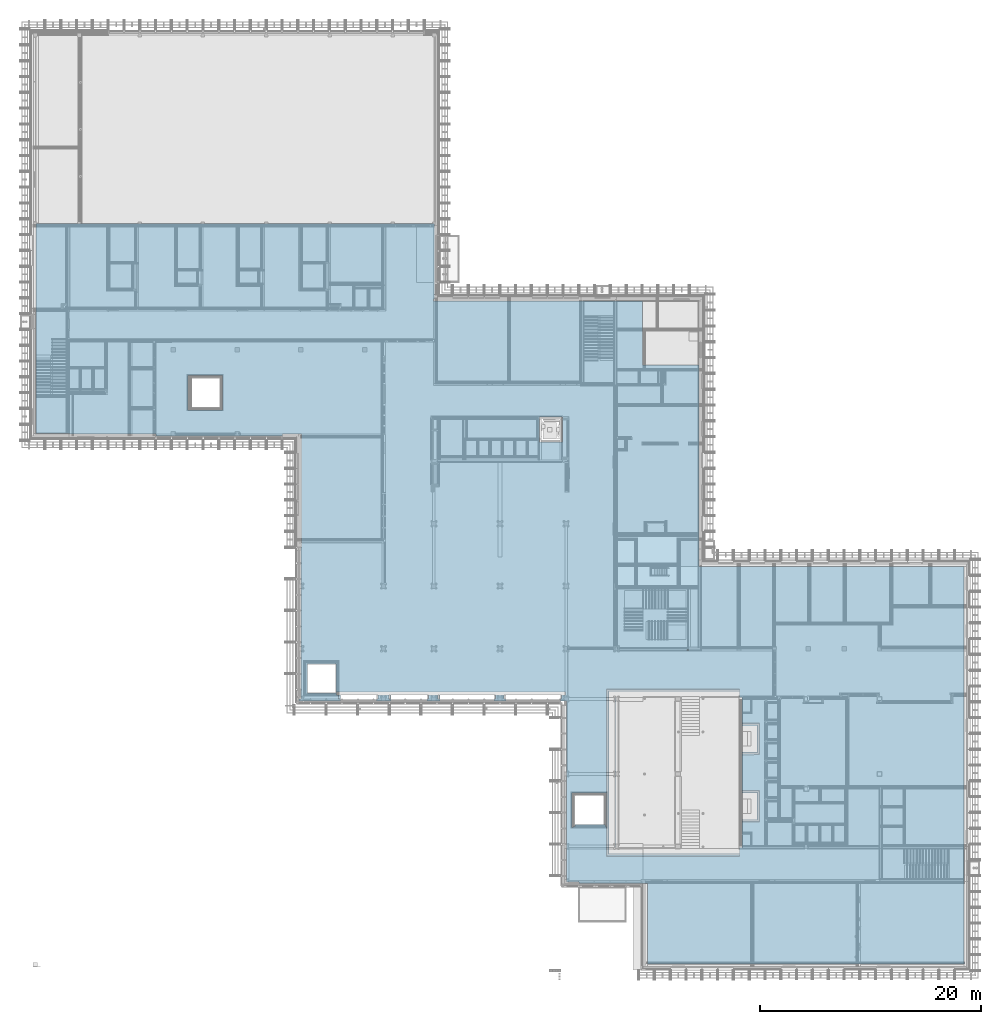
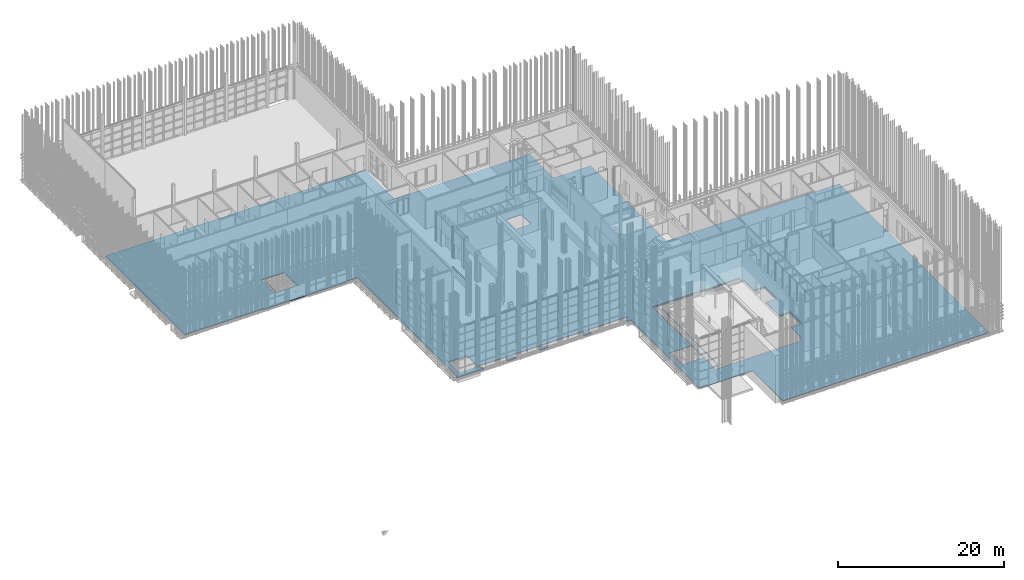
# One storey, part 167 of 260: 1 building element part, 1 element without a shape of its own.
"""IFC2X3 building model written with IfcOpenShell, lengths in millimetres."""

from ifc_helpers import new_model, entity, si_unit, converted_unit, derived_unit, money_unit, direction, frame, origin_with_axes, place, context, subcontext, project, spatial, faceted_brep, material, type_object, element, aggregate, save


model = new_model("IFC2X3")

# Units and contexts
model_context = context("Model", 3, precision=0.01, world=origin_with_axes(), true_north=direction((0.0, 1.0)))
body_context = subcontext(model_context, "Body", "Model", "MODEL_VIEW")
ifc_project = project(units=[si_unit("LENGTHUNIT", "METRE", prefix="MILLI"), si_unit("AREAUNIT", "SQUARE_METRE"), si_unit("VOLUMEUNIT", "CUBIC_METRE"), converted_unit("PLANEANGLEUNIT", "DEGREE", entity("IfcPlaneAngleMeasure", 0.0174532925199), si_unit("PLANEANGLEUNIT", "RADIAN"), dimensions=[0, 0, 0, 0, 0, 0, 0]), money_unit("EUR"), converted_unit("TIMEUNIT", "Year", entity("IfcTimeMeasure", 31556926.0), si_unit("TIMEUNIT", "SECOND"), dimensions=[0, 0, 1, 0, 0, 0, 0]), si_unit("MASSUNIT", "GRAM", prefix="KILO"), si_unit("THERMODYNAMICTEMPERATUREUNIT", "DEGREE_CELSIUS"), si_unit("LUMINOUSINTENSITYUNIT", "LUMEN"), si_unit("ENERGYUNIT", "JOULE", prefix="MEGA"), derived_unit("THERMALCONDUCTANCEUNIT", [(si_unit("POWERUNIT", "WATT"), 1), (si_unit("LENGTHUNIT", "METRE"), -1), (si_unit("THERMODYNAMICTEMPERATUREUNIT", "KELVIN"), -1)]), derived_unit("SPECIFICHEATCAPACITYUNIT", [(si_unit("ENERGYUNIT", "JOULE"), 1), (si_unit("MASSUNIT", "GRAM", prefix="KILO"), -1), (si_unit("THERMODYNAMICTEMPERATUREUNIT", "KELVIN"), -1)]), derived_unit("MASSDENSITYUNIT", [(si_unit("MASSUNIT", "GRAM", prefix="KILO"), 1), (si_unit("VOLUMEUNIT", "CUBIC_METRE"), -1)])], contexts=[model_context])

# Site, building, storey
site_placement = place(None, origin_with_axes())
site = spatial("IfcSite", under=ifc_project, at=site_placement, Name="Kolde pst 67a", CompositionType="ELEMENT")
building_placement = place(site_placement, origin_with_axes())
building = spatial("IfcBuilding", under=site, at=building_placement, Name="Riigigümnaasium", CompositionType="ELEMENT")
storey_placement = place(building_placement, origin_with_axes())
storey = spatial("IfcBuildingStorey", under=building, at=storey_placement, Name="1. korrus", CompositionType="ELEMENT", Elevation=0.0)

# Slab, building element part
slab_type = type_object("IfcSlabType", Name="PP-RBM-10/1_EPS 200 500", PredefinedType="NOTDEFINED")
slab_placement = place(storey_placement, frame((266.322784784, 67249.9971514, 0.0), z_axis=(0.0, 0.0, 1.0), x_axis=(1.0, 0.0, 0.0)))
slab = element("IfcSlab", 1, at=slab_placement, inside=storey, type_object=slab_type, Name="Põrand pinnasel", PredefinedType="NOTDEFINED")
ifc_material = material(Name="_SOOJUSTUS - vahtpolüstüreenplaadid EPS 120 Perimeeter, survetugevus min 120kPa, veeimavus <2%, soojuserijuhtivus λD<0,036 W/(mK)")
building_element_part_placement = place(slab_placement, origin_with_axes())
building_element_part = element("IfcBuildingElementPart", 2, at=building_element_part_placement, material=ifc_material, Name="_SOOJUSTUS - vahtpolüstüreenplaadid EPS 120 Perimeeter, survetugevus min 120kPa, veeimavus <2%, soojuserijuhtivus λD<0,036 W/(mK)", context=body_context, shape_type="Brep", body=[
    faceted_brep([(27531.5095656, -42650.2966921, -200.2), (27531.5095656, -42649.7267552, -200.2), (27168.5095656, -42649.7267552, -200.2), (27168.5095656, -42400.2966901, -200.2), (47902.308394, -42400.2966901, -200.2), (47902.308394, -42650.2966921, -200.2), (47560.6814514, -42650.2966876, -200.2), (47560.6775752, -42989.9947483, -200.2), (47436.9477703, -42989.9933365, -200.2), (47436.9477703, -43209.9971514, -200.2), (47799.9291214, -43209.997022, -200.2), (47983.6626713, -43209.9991185, -200.2), (47983.4761046, -59559.9948118, -200.2), (49105.2303604, -59560.0076119, -200.2), (49105.2284207, -59729.9962674, -200.2), (55329.9251795, -59729.9852703, -200.2), (55329.9241436, -67009.9971514, -200.2), (83973.6765431, -67009.9971514, -200.2), (83973.6765431, -31009.9974516, -200.2), (59999.9377357, -31009.9974516, -200.2), (59999.9377357, -12779.9970931, -200.2), (54876.9257173, -12779.9970931, -200.2), (54876.9257173, -12732.9970931, -200.2), (54847.6592908, -12732.9970931, -200.2), (54847.6592908, -12729.9970931, -200.2), (54847.6592908, -7009.99696703, -200.2), (35973.6764556, -7009.99696703, -200.2), (35973.6764556, -6809.99696703, -200.2), (36039.9416319, -6809.99696703, -200.2), (36039.9429015, 0.0, -200.2), (0.0, 0.0, -200.2), (0.0, -19010.7371507, -200.2), (2999.88406628, -19009.9992035, -200.2), (2999.88406448, -19050.0165838, -200.2), (10868.5385943, -19050.0164764, -200.2), (10868.5385943, -19210.0163206, -200.2), (22288.5650026, -19210.0163206, -200.2), (22288.5650026, -19050.0163206, -200.2), (23999.9463759, -19050.0166275, -200.2), (23999.9463759, -29299.500562, -200.2), (23973.6799494, -29299.5005252, -200.2), (23973.6799494, -42999.980095, -200.2), (23799.9460972, -42999.9781126, -200.2), (23799.9457899, -43209.7267572, -200.2), (27557.7759921, -43209.7267572, -200.2), (27557.7759921, -42650.2966876, -200.2), (24550.0004112, -39859.9971514, -200.2), (27150.0004112, -39859.9971514, -200.2), (27150.0004112, -42459.9971514, -200.2), (24550.0004112, -42459.9971514, -200.2), (45534.9291024, -17479.9971915, -200.2), (47634.9291054, -17479.9971915, -200.2), (47634.9291054, -19779.9971915, -200.2), (45534.9291024, -19779.9971915, -200.2), (59013.7339847, -38555.9974954, -200.2), (59013.7339847, -38629.9974954, -200.2), (58908.7339847, -38629.9974954, -200.2), (58908.7339847, -38555.9974954, -200.2), (16871.6777342, -16888.0095232, -200.2), (13735.6777342, -16888.0095232, -200.2), (13725.6777342, -16888.0095232, -200.2), (13725.6777342, -13742.0095232, -200.2), (13735.6777342, -13742.0095232, -200.2), (16861.6777342, -13742.0095232, -200.2), (16871.6777342, -13742.0095232, -200.2), (16871.6777342, -16878.0095232, -200.2), (65456.2034035, -45197.1583085, -200.199995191), (65456.289526, -48062.683755, -200.199995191), (65314.8681698, -48062.6879883, -200.20000016), (63889.4798317, -48062.730776, -200.199997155), (63889.4803785, -51297.2557666, -200.199997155), (65314.9653428, -51297.2192021, -200.199995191), (65456.386699, -51297.2155757, -200.199995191), (65456.4728938, -54162.7771953, -200.199995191), (65315.0515376, -54162.7808125, -200.199995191), (63889.4805108, -54162.8172633, -200.199997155), (63889.4805108, -56470.0352098, -200.2), (63663.580611, -56470.0352098, -200.2), (63663.580611, -57111.286678, -200.2), (51752.4198565, -57111.2866668, -200.2), (51752.4198565, -42258.7455672, -200.2), (63663.580611, -42258.7455562, -200.2), (63663.580611, -42899.9970244, -200.2), (63889.4805108, -42900.0006175, -200.2), (63889.4797602, -45197.2053498, -200.199997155), (65314.7820474, -45197.1625537, -200.199995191), (51374.9334552, -54375.0161939, -200.2), (48774.9334552, -54375.0161939, -200.2), (48774.9334552, -51775.0161939, -200.2), (48748.6670287, -51775.0161939, -200.2), (48748.6670287, -54535.0161939, -200.2), (48588.6670287, -54535.0161939, -200.2), (48588.6670287, -54538.0161939, -200.2), (48585.6670287, -54538.0161939, -200.2), (48585.6670287, -54638.0161939, -200.2), (48485.6670287, -54638.0161939, -200.2), (48485.6670287, -54648.0161939, -200.2), (48475.6670287, -54648.0161939, -200.2), (48475.6670287, -51502.0161939, -200.2), (48485.6670287, -51502.0161939, -200.2), (51610.8871871, -51502.0161939, -200.199998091), (51610.8871871, -42117.212881, -200.199998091), (51752.3085433, -42117.2128908, -200.2), (63663.580611, -42117.2128906, -200.2), (63663.580611, -42258.6342468, -200.2), (51752.3085433, -42258.6342475, -200.2), (51752.3085433, -57111.3979867, -200.2), (63663.580611, -57111.3979874, -200.2), (63663.580611, -57252.8193437, -200.2), (51752.3085433, -57252.8193435, -200.2), (51610.8871871, -57252.8193551, -200.199998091), (51610.8871871, -54538.0161939, -200.199998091), (51511.6670287, -54538.0161939, -200.2), (51511.6670287, -54535.0161939, -200.2), (51508.6670287, -54535.0161939, -200.2), (51508.6670287, -54375.0161939, -200.2), (27531.5095656, -42650.2966921, -200.2), (27531.5095656, -43000.0206928, -200.2), (27381.5095656, -43000.0189812, -200.2), (27381.5095656, -42650.2966921, -200.2), (27531.5095656, -42649.7267552, -300.2), (27531.5095656, -42650.2966921, -230.1), (27531.5095656, -43000.0206928, -230.1), (27531.5095656, -43000.0206928, -300.2), (27168.5095656, -42649.7267552, -300.2), (27168.5095656, -42400.296694, -300.2), (47902.308394, -42400.2966901, -300.2), (47902.308394, -43000.0263026, -300.2), (47902.308394, -43000.0263026, -230.1), (47902.308394, -42650.2966921, -230.1), (47560.6814514, -42650.2966921, -230.1), (47560.6775752, -42989.9947483, -230.099964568), (47436.9477703, -42989.9933365, -230.099964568), (47436.9477703, -43000.0261745, -230.1), (47436.9477703, -43000.0206919, -300.2), (47436.9477703, -43209.9971514, -300.2), (47799.9291214, -43209.997022, -300.2), (47983.6626713, -43209.9991185, -300.2), (47983.4761046, -59559.9948118, -300.2), (49105.2303604, -59560.0076119, -300.2), (49105.2284207, -59729.9962674, -300.2), (55329.9251795, -59729.9852703, -300.2), (55329.9241436, -67009.9971514, -300.2), (83999.9167207, -67009.9971514, -300.2), (83999.9167207, -67009.9971514, -270.00000149), (83973.6765431, -67009.9971514, -270.00000149), (83973.6765431, -66810.0545954, -270.00000149), (83973.6765431, -31009.9971244, -270.00000149), (83773.7339872, -31009.9971272, -270.000009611), (83773.7339872, -31009.9974516, -300.2), (59999.9377357, -31009.9974516, -300.2), (59999.9377357, -12779.9970931, -300.2), (54876.9257173, -12779.9970931, -300.2), (54876.9257173, -12732.9970931, -300.2), (54847.6592908, -12732.9970931, -300.2), (54847.6592908, -12729.9970931, -300.2), (54847.6592908, -7209.939523, -300.2), (54847.6592908, -7209.939523, -270.00000149), (54847.6592908, -7009.99696703, -270.00000149), (35973.6764556, -7009.99696703, -269.99999952), (35973.6764556, -6809.99696703, -269.99999952), (36039.9415946, -6809.99696703, -269.999999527), (36039.9415946, -6609.939523, -269.999999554), (36039.9416692, -6609.939523, -300.2), (36039.9429015, 0.0, -300.2), (0.0, 0.0, -300.2), (0.0, -19010.7371507, -300.2), (2999.88406628, -19009.9992035, -300.2), (2999.88406448, -19050.0165838, -300.2), (10868.5385943, -19050.0164764, -300.2), (10868.5385943, -19210.0163206, -300.2), (22288.5650026, -19210.0163206, -300.2), (22288.5650026, -19050.0163206, -300.2), (23999.9463759, -19050.0166275, -300.2), (23999.9463759, -29299.500562, -300.2), (23973.6799494, -29299.5005252, -300.2), (23973.6799494, -42999.980095, -300.2), (23799.9460972, -42999.9781126, -300.2), (23799.9457899, -43209.7267572, -300.2), (27557.7759921, -43209.7267572, -300.2), (27557.7759921, -43000.0207, -230.1), (27557.7759921, -42650.2966921, -230.1), (27557.7759921, -43000.0206919, -300.2), (27150.0004112, -39859.9971514, -300.2), (24550.0004112, -39859.9971514, -300.2), (27150.0004112, -42459.9971514, -300.2), (24550.0004112, -42459.9971514, -300.2), (47634.9291054, -17479.9971915, -300.2), (45534.9291024, -17479.9971915, -300.2), (47634.9291054, -19779.9971915, -300.2), (45534.9291024, -19779.9971915, -300.2), (59013.7339847, -38555.9974954, -300.000001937), (59013.7339847, -38629.9974954, -300.000001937), (58908.7339847, -38629.9974954, -300.000001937), (58908.7339847, -38555.9974954, -300.000001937), (16871.6777342, -16888.0095232, -300.2), (13735.6777342, -16888.0095232, -300.2), (13725.6777342, -16888.0095232, -300.2), (13725.6777342, -13742.0095232, -300.2), (13735.6777342, -13742.0095232, -300.2), (16861.6777342, -13742.0095232, -300.2), (16871.6777342, -13742.0095232, -300.2), (16871.6777342, -16878.0095232, -300.2), (65356.2865219, -47962.6867513, -300.200000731), (65356.2064104, -45297.1613158, -300.200000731), (65214.8651651, -47962.690992, -300.199999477), (63889.4798148, -47962.7307774, -300.19999581), (63889.4803954, -51397.2557652, -300.199995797), (65214.9683497, -51397.2217721, -300.199997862), (65356.3897083, -51397.2181454, -300.200000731), (65356.4698872, -54062.7797475, -300.200000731), (65215.0485273, -54062.7833631, -300.199999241), (63889.4805108, -54062.8172647, -300.19999581), (63889.4805108, -56470.0352098, -300.2), (63663.580611, -56470.0352098, -300.2), (63663.580611, -57011.3220155, -300.2), (51852.3845167, -57011.3220094, -300.2), (51852.3845167, -42358.7102245, -300.2), (63663.580611, -42358.7102187, -300.2), (63663.580611, -42899.9970244, -300.2), (63889.4805108, -42900.0006175, -300.2), (63889.4797275, -45297.2053484, -300.199995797), (65214.7850519, -45297.1655613, -300.199997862), (48774.9334552, -54375.0161939, -300.2), (51374.9334552, -54375.0161939, -300.2), (48774.9334552, -51775.0161939, -300.2), (48748.6670287, -51775.0161939, -300.2), (48748.6670287, -54535.0161939, -300.2), (48588.6670287, -54535.0161939, -300.2), (48588.6670287, -54538.0161939, -300.2), (48585.6670287, -54538.0161939, -300.2), (48585.6670287, -54638.0161939, -300.2), (48485.6670287, -54638.0161939, -300.2), (48485.6670287, -54648.0161939, -300.2), (48475.6670287, -54648.0161939, -300.2), (48475.6670287, -51502.0161939, -300.2), (48485.6670287, -51502.0161939, -300.2), (51611.6670287, -51502.0161939, -300.2), (51611.6670287, -51502.0161939, -200.979839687), (51710.8871857, -42217.2128828, -300.200003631), (51621.6670287, -51502.0161939, -210.979840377), (51621.6670287, -54638.0161939, -210.979840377), (51611.6670287, -54638.0161939, -200.979839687), (51611.6670287, -54538.0161939, -200.979839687), (51710.8871857, -57152.8193495, -300.200003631), (51852.308542, -42217.2128859, -300.199998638), (63663.580611, -42217.2128892, -300.199998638), (63663.580611, -42358.6342468, -300.2), (51852.308544, -42358.6342479, -300.200000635), (51852.3085436, -57011.3979867, -300.200000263), (63663.580611, -57011.3979874, -300.2), (63663.580611, -57152.819345, -300.199998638), (51852.308542, -57152.8193483, -300.199998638), (51611.6670287, -54538.0161939, -300.2), (51511.6670287, -54538.0161939, -300.2), (51511.6670287, -54535.0161939, -300.2), (51508.6670287, -54535.0161939, -300.2), (51508.6670287, -54375.0161939, -300.2), (27531.5095656, -42650.2966921, -230.099996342), (27531.5095656, -43000.0206928, -230.099996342), (27381.5095656, -43000.0189812, -230.099996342), (27381.5095656, -42650.2966921, -230.099996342), (35713.7338936, -6609.939523, -300.2), (35713.7338936, -7209.939523, -300.2), (83773.7339872, -66810.0545954, -300.2), (83999.9167207, -66810.0545954, -300.2), (51611.6670287, -54638.0161939, -300.2), (51621.6670287, -54638.0161939, -300.2), (51621.6670287, -51502.0161939, -300.2), (83999.9167207, -66810.0545954, -270.00000149), (83773.7339872, -66810.0545954, -270.00000149), (35713.7338936, -7209.939523, -269.99999952), (35713.7338936, -7009.99696703, -269.99999952), (35713.7338936, -6609.939523, -269.99999952)], [[[0, 1, 2, 3, 4, 5, 6, 7, 8, 9, 10, 11, 12, 13, 14, 15, 16, 17, 18, 19, 20, 21, 22, 23, 24, 25, 26, 27, 28, 29, 30, 31, 32, 33, 34, 35, 36, 37, 38, 39, 40, 41, 42, 43, 44, 45], [46, 47, 48, 49], [50, 51, 52, 53], [54, 55, 56, 57], [58, 59, 60, 61, 62, 63, 64, 65], [66, 67, 68, 69, 70, 71, 72, 73, 74, 75, 76, 77, 78, 79, 80, 81, 82, 83, 84, 85], [86, 87, 88, 89, 90, 91, 92, 93, 94, 95, 96, 97, 98, 99, 100, 101, 102, 103, 104, 105, 106, 107, 108, 109, 110, 111, 112, 113, 114, 115], [116, 117, 118, 119]], [[120, 1, 0, 121, 122, 123]], [[124, 2, 1, 120]], [[124, 125, 3, 2]], [[126, 4, 3, 125]], [[5, 4, 126, 127, 128, 129]], [[130, 6, 5, 129]], [[6, 130, 131, 7]], [[7, 131, 132, 8]], [[132, 133, 134, 135, 9, 8]], [[9, 135, 136, 10]], [[136, 137, 11, 10]], [[137, 138, 12, 11]], [[139, 13, 12, 138]], [[140, 14, 13, 139]], [[15, 14, 140, 141]], [[142, 16, 15, 141]], [[143, 144, 145, 17, 16, 142]], [[145, 146, 147, 18, 17]], [[18, 147, 148, 149, 150, 19]], [[151, 20, 19, 150]], [[152, 21, 20, 151]], [[22, 21, 152, 153]], [[22, 153, 154, 23]], [[24, 23, 154, 155]], [[24, 155, 156, 157, 158, 25]], [[26, 25, 158, 159]], [[160, 27, 26, 159]], [[160, 161, 28, 27]], [[29, 28, 161, 162, 163, 164]], [[165, 30, 29, 164]], [[166, 31, 30, 165]], [[167, 32, 31, 166]], [[168, 33, 32, 167]], [[169, 34, 33, 168]], [[170, 35, 34, 169]], [[171, 36, 35, 170]], [[172, 37, 36, 171]], [[173, 38, 37, 172]], [[174, 39, 38, 173]], [[174, 175, 40, 39]], [[176, 41, 40, 175]], [[177, 42, 41, 176]], [[43, 42, 177, 178]], [[179, 44, 43, 178]], [[180, 181, 45, 44, 179, 182]], [[121, 0, 45, 181]], [[183, 47, 46, 184]], [[185, 48, 47, 183]], [[186, 49, 48, 185]], [[184, 46, 49, 186]], [[187, 51, 50, 188]], [[189, 52, 51, 187]], [[190, 53, 52, 189]], [[188, 50, 53, 190]], [[191, 192, 55, 54]], [[192, 193, 56, 55]], [[193, 194, 57, 56]], [[194, 191, 54, 57]], [[195, 196, 59, 58]], [[197, 60, 59, 196]], [[60, 197, 198, 61]], [[199, 62, 61, 198]], [[200, 63, 62, 199]], [[63, 200, 201, 64]], [[202, 65, 64, 201]], [[58, 65, 202, 195]], [[203, 67, 66, 204]], [[67, 203, 205, 68]], [[205, 206, 69, 68]], [[207, 70, 69, 206]], [[208, 71, 70, 207]], [[72, 71, 208, 209]], [[73, 72, 209, 210]], [[74, 73, 210, 211]], [[74, 211, 212, 75]], [[212, 213, 76, 75]], [[76, 213, 214, 77]], [[78, 77, 214, 215]], [[216, 79, 78, 215]], [[216, 217, 80, 79]], [[81, 80, 217, 218]], [[219, 82, 81, 218]], [[219, 220, 83, 82]], [[221, 84, 83, 220]], [[221, 222, 85, 84]], [[204, 66, 85, 222]], [[223, 87, 86, 224]], [[223, 225, 88, 87]], [[226, 89, 88, 225]], [[90, 89, 226, 227]], [[91, 90, 227, 228]], [[91, 228, 229, 92]], [[93, 92, 229, 230]], [[93, 230, 231, 94]], [[95, 94, 231, 232]], [[95, 232, 233, 96]], [[96, 233, 234, 97]], [[97, 234, 235, 98]], [[235, 236, 99, 98]], [[100, 99, 236, 237, 238]], [[239, 101, 100, 238, 240, 241, 242, 243, 111, 110, 244]], [[102, 101, 239, 245]], [[102, 245, 246, 103]], [[103, 246, 247, 104]], [[104, 247, 248, 105]], [[105, 248, 249, 106]], [[107, 106, 249, 250]], [[108, 107, 250, 251]], [[251, 252, 109, 108]], [[244, 110, 109, 252]], [[253, 254, 112, 111, 243]], [[112, 254, 255, 113]], [[256, 114, 113, 255]], [[114, 256, 257, 115]], [[224, 86, 115, 257]], [[117, 116, 258, 259]], [[118, 117, 259, 260]], [[119, 118, 260, 261]], [[116, 119, 261, 258]], [[121, 181, 180, 122]], [[122, 180, 182, 123]], [[126, 125, 124, 120, 123, 182, 179, 178, 177, 176, 175, 174, 173, 172, 171, 170, 169, 168, 167, 166, 165, 164, 163, 262, 263, 156, 155, 154, 153, 152, 151, 150, 149, 264, 265, 143, 142, 141, 140, 139, 138, 137, 136, 135, 134, 127], [184, 186, 185, 183], [188, 190, 189, 187], [196, 195, 202, 201, 200, 199, 198, 197], [239, 244, 252, 251, 250, 249, 248, 247, 246, 245], [208, 207, 206, 205, 203, 204, 222, 221, 220, 219, 218, 217, 216, 215, 214, 213, 212, 211, 210, 209], [227, 226, 225, 223, 224, 257, 256, 255, 254, 253, 266, 267, 268, 237, 236, 235, 234, 233, 232, 231, 230, 229, 228]], [[128, 127, 134, 133]], [[132, 131, 130, 129, 128, 133]], [[269, 144, 143, 265]], [[144, 269, 146, 145]], [[148, 147, 146, 270]], [[149, 148, 270, 264]], [[271, 157, 156, 263]], [[161, 160, 159, 158, 157, 271, 272, 273, 162]], [[262, 163, 162, 273]], [[192, 191, 194, 193]], [[240, 238, 237, 268]], [[268, 267, 241, 240]], [[267, 266, 242, 241]], [[242, 266, 253, 243]], [[261, 260, 259, 258]], [[271, 263, 262, 273, 272]], [[270, 146, 269, 265, 264]]]),
    faceted_brep([(31926.6750961, -43000.0219031, -230.1), (31926.6750961, -42650.2966921, -230.1), (31926.6750961, -42650.2966876, -200.2), (31926.6750961, -43000.0708452, -200.2), (31926.6750961, -43000.0708452, -300.2), (31926.6750961, -43000.0206919, -300.2), (30940.6848933, -43000.0216316, -230.1), (30940.6848933, -42650.2966921, -230.1), (30940.6848933, -42650.2966876, -200.2), (32102.9415226, -42650.2966876, -200.2), (32076.6750961, -42650.2966876, -200.2), (32076.6750961, -43000.0725568, -200.2), (30940.6848933, -43000.0595942, -200.2), (30816.9513198, -43000.0581823, -200.2), (30816.9513198, -43209.7267557, -200.2), (32102.9415226, -43209.7267557, -200.2), (32076.6750961, -43000.0725568, -300.2), (32076.6750961, -43000.0206919, -300.2), (32102.9415226, -43000.0206919, -300.2), (32102.9415226, -43209.7267557, -300.2), (30816.9513198, -43209.7267557, -300.2), (30816.9513198, -43000.0581823, -300.2), (30940.6848933, -43000.0595942, -300.2), (30940.6848933, -43000.0206919, -300.2), (32102.9415226, -42650.2966921, -230.1), (32076.6750961, -42650.2966921, -230.1), (32076.6750961, -43000.0219445, -230.1), (32102.9415226, -43000.0219517, -230.1)], [[[0, 1, 2, 3, 4, 5]], [[1, 0, 6, 7]], [[8, 2, 1, 7]], [[9, 10, 11, 3, 2, 8, 12, 13, 14, 15]], [[16, 4, 3, 11]], [[17, 18, 19, 20, 21, 22, 23, 5, 4, 16]], [[0, 5, 23, 6]], [[6, 23, 22, 12, 8, 7]], [[10, 9, 24, 25]], [[26, 17, 16, 11, 10, 25]], [[12, 22, 21, 13]], [[21, 20, 14, 13]], [[15, 14, 20, 19]], [[27, 24, 9, 15, 19, 18]], [[27, 18, 17, 26]], [[24, 27, 26, 25]]]),
    faceted_brep([(36356.6715466, -43000.0231231, -230.1), (36356.6715466, -42650.2966921, -230.1), (36356.6715466, -42650.2966876, -200.2), (36356.6715466, -43000.1213951, -200.2), (36356.6715466, -43000.1213951, -300.2), (36356.6715466, -43000.0206919, -300.2), (35490.6813438, -43000.0228846, -230.1), (35490.6813438, -42650.2966921, -230.1), (35490.6813438, -42650.2966876, -200.2), (36532.9379731, -42650.2966876, -200.2), (36506.6715466, -42650.2966876, -200.2), (36506.6715466, -43000.1231067, -200.2), (35490.6813438, -43000.1115134, -200.2), (35366.9477703, -43000.1101015, -200.2), (35366.9477703, -43209.7267557, -200.2), (36532.9379731, -43209.7267557, -200.2), (36506.6715466, -43000.1231067, -300.2), (36506.6715466, -43000.0206919, -300.2), (36532.9379731, -43000.0206919, -300.2), (36532.9379731, -43209.7267557, -300.2), (35366.9477703, -43209.7267557, -300.2), (35366.9477703, -43000.1101015, -300.2), (35490.6813438, -43000.1115134, -300.2), (35490.6813438, -43000.0206919, -300.2), (36532.9379731, -42650.2966921, -230.1), (36506.6715466, -42650.2966921, -230.1), (36506.6715466, -43000.0231644, -230.1), (36532.9379731, -43000.0231717, -230.1)], [[[0, 1, 2, 3, 4, 5]], [[1, 0, 6, 7]], [[8, 2, 1, 7]], [[9, 10, 11, 3, 2, 8, 12, 13, 14, 15]], [[4, 3, 11, 16]], [[17, 18, 19, 20, 21, 22, 23, 5, 4, 16]], [[0, 5, 23, 6]], [[6, 23, 22, 12, 8, 7]], [[10, 9, 24, 25]], [[26, 17, 16, 11, 10, 25]], [[13, 12, 22, 21]], [[13, 21, 20, 14]], [[15, 14, 20, 19]], [[27, 24, 9, 15, 19, 18]], [[27, 18, 17, 26]], [[24, 27, 26, 25]]]),
    faceted_brep([(42354.6715466, -43000.0247749, -230.1), (42354.6715466, -42650.2966921, -230.1), (42354.6715466, -42650.2966876, -200.2), (42354.6715466, -43000.1898371, -200.2), (42354.6715466, -43000.1898371, -300.2), (42354.6715466, -43000.0206919, -300.2), (41560.6813438, -43000.0245562, -230.1), (41560.6813438, -42650.2966921, -230.1), (41560.6813438, -42650.2966876, -200.2), (42530.9379731, -42650.2966876, -200.2), (42504.6715466, -42650.2966876, -200.2), (42504.6715466, -43000.1915488, -200.2), (41560.6813438, -43000.1807771, -200.2), (41436.9477703, -43000.1793652, -200.2), (41436.9477703, -43209.9971514, -200.2), (42530.9379731, -43209.9971514, -200.2), (42504.6715466, -43000.1915488, -300.2), (42504.6715466, -43000.0206919, -300.2), (42530.9379731, -43000.0206919, -300.2), (42530.9379731, -43209.9971514, -300.2), (41436.9477703, -43209.9971514, -300.2), (41436.9477703, -43000.1793652, -300.2), (41560.6813438, -43000.1807771, -300.2), (41560.6813438, -43000.0206919, -300.2), (42530.9379731, -42650.2966921, -230.1), (42504.6715466, -42650.2966921, -230.1), (42504.6715466, -43000.0248162, -230.1), (42530.9379731, -43000.0248234, -230.1)], [[[0, 1, 2, 3, 4, 5]], [[1, 0, 6, 7]], [[8, 2, 1, 7]], [[9, 10, 11, 3, 2, 8, 12, 13, 14, 15]], [[16, 4, 3, 11]], [[17, 18, 19, 20, 21, 22, 23, 5, 4, 16]], [[0, 5, 23, 6]], [[6, 23, 22, 12, 8, 7]], [[10, 9, 24, 25]], [[26, 17, 16, 11, 10, 25]], [[12, 22, 21, 13]], [[21, 20, 14, 13]], [[15, 14, 20, 19]], [[27, 24, 9, 15, 19, 18]], [[27, 18, 17, 26]], [[24, 27, 26, 25]]]),
    faceted_brep([(63889.4798078, -47921.3094197, -200.199997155), (65314.8639194, -47921.26663, -200.20000016), (65314.7862977, -45338.5839239, -200.199995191), (63889.479714, -45338.6267061, -200.199997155), (63889.4797139, -45338.7380188, -200.2), (65314.6749861, -45338.6952481, -200.2), (65314.7526011, -47921.1553125, -200.2), (65173.3011385, -47921.1595636, -200.200005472), (63889.4798078, -47921.198108, -200.199999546), (65214.8609126, -47821.2696317, -300.200001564), (63889.4797909, -47821.3094159, -300.199999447), (65214.7893018, -45438.5869242, -300.199998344), (63889.4796813, -45438.7026812, -300.2), (65214.7133316, -45438.6629063, -300.2), (65214.7849378, -47821.1936558, -300.2), (65073.2981368, -47821.197906, -300.200002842), (63889.4797909, -47821.2334456, -300.199999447)], [[[0, 1, 2, 3, 4, 5, 6, 7, 8]], [[9, 1, 0, 10]], [[1, 9, 11, 2]], [[2, 12, 3]], [[12, 4, 3]], [[5, 4, 12, 13]], [[5, 13, 14, 6]], [[15, 16, 8, 7, 6, 14]], [[10, 0, 8, 16]], [[9, 10, 16, 15, 14, 13, 12, 11]], [[12, 2, 11]]]),
    faceted_brep([(65215.0442743, -53921.3620015, -300.199998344), (65315.0472837, -54021.3594423, -200.199995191), (63889.4805108, -54021.395907, -200.199997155), (63889.4805108, -53921.3959027, -300.2), (65314.9695967, -51438.6405723, -200.199995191), (65214.9726032, -51538.6431351, -300.199998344), (63889.4804024, -51438.6771229, -200.199997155), (63889.4804024, -51438.7884356, -200.2), (65173.4068273, -51438.7555175, -200.199994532), (65314.8582851, -51438.751896, -200.2), (65314.9359654, -54021.2481243, -200.2), (65173.4845076, -54021.2517479, -200.199994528), (63889.4805108, -54021.2845948, -200.2), (63889.4805108, -53921.3199324, -300.2), (65073.4815012, -53921.2896457, -300.199997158), (65214.9682995, -53921.2860237, -300.2), (65214.896633, -51538.7191168, -300.2), (65073.4098346, -51538.7227417, -300.199997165), (63889.4804193, -51538.753098, -300.2), (63889.4804193, -51538.6771272, -300.2)], [[[0, 1, 2, 3]], [[4, 1, 0, 5]], [[1, 4, 6, 7, 8, 9, 10, 11, 12, 2]], [[2, 12, 13, 3]], [[5, 0, 3, 13, 14, 15, 16, 17, 18, 19]], [[4, 5, 19, 6]], [[18, 7, 6, 19]], [[17, 16, 9, 8, 7, 18]], [[10, 9, 16, 15]], [[11, 10, 15, 14, 13, 12]]]),
    faceted_brep([(52393.6713209, -56470.0352098, -200.199999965), (52419.9377639, -56470.0352098, -200.2), (52419.9377639, -42899.9970244, -200.2), (52393.6713209, -42899.9970244, -200.199999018), (52419.9377639, -56470.0352098, -300.2), (52393.6713209, -56470.0352098, -300.199999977), (52419.9377639, -42899.9970244, -300.2), (52393.6713209, -42899.9970244, -300.199999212)], [[[0, 1, 2, 3]], [[4, 1, 0, 5]], [[1, 4, 6, 2]], [[7, 3, 2, 6]], [[5, 0, 3, 7]], [[4, 5, 7, 6]]]),
    faceted_brep([(14024.9441607, -14015.0095232, -300.2), (14024.9441607, -14015.0095232, -200.2), (14024.9441607, -16615.0095232, -200.2), (14024.9441607, -16615.0095232, -300.2), (13998.6777342, -14015.0095232, -200.2), (13998.6777342, -14015.0095232, -300.2), (13998.6777342, -16615.0095232, -200.2), (13998.6777342, -16615.0095232, -300.2)], [[[0, 1, 2, 3]], [[4, 1, 0, 5]], [[1, 4, 6, 2]], [[6, 7, 3, 2]], [[5, 0, 3, 7]], [[4, 5, 7, 6]]]),
])
aggregate(slab, [building_element_part])

save(model, "model.ifc")
